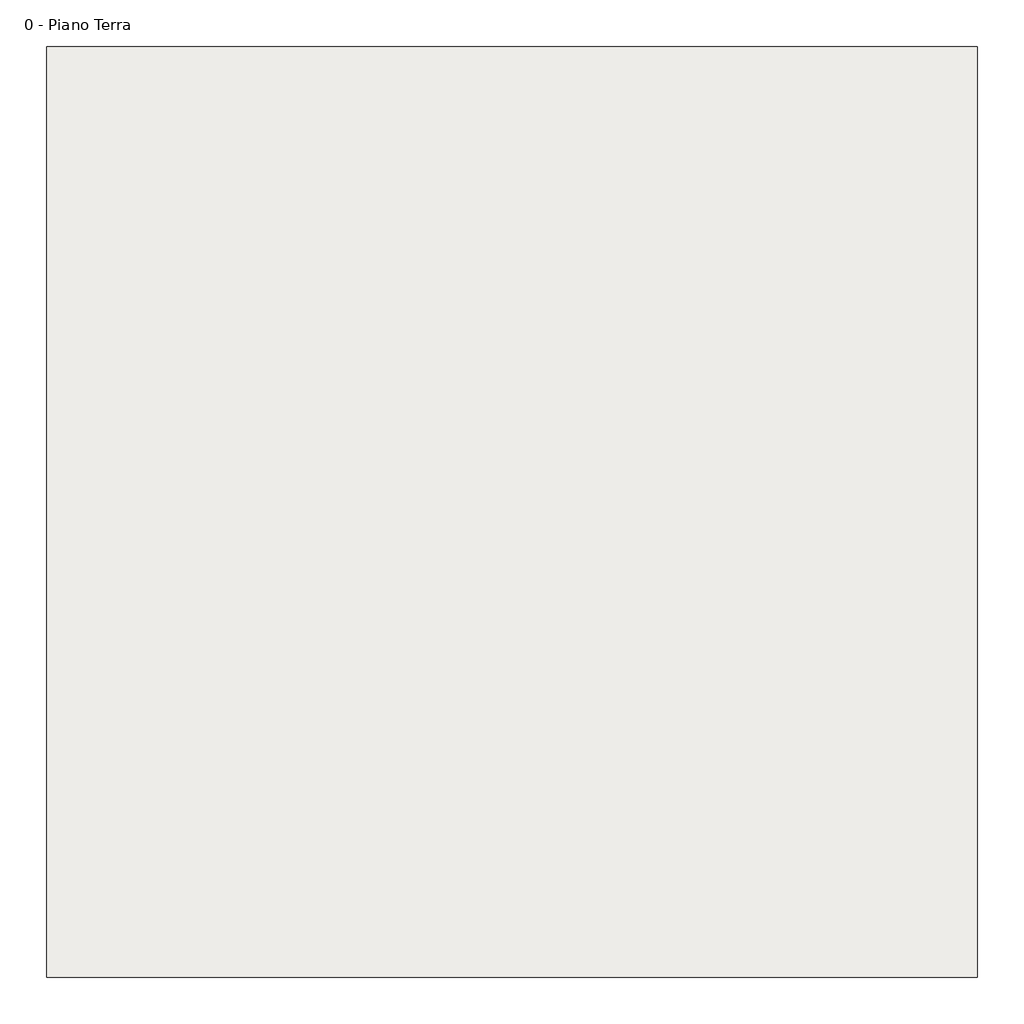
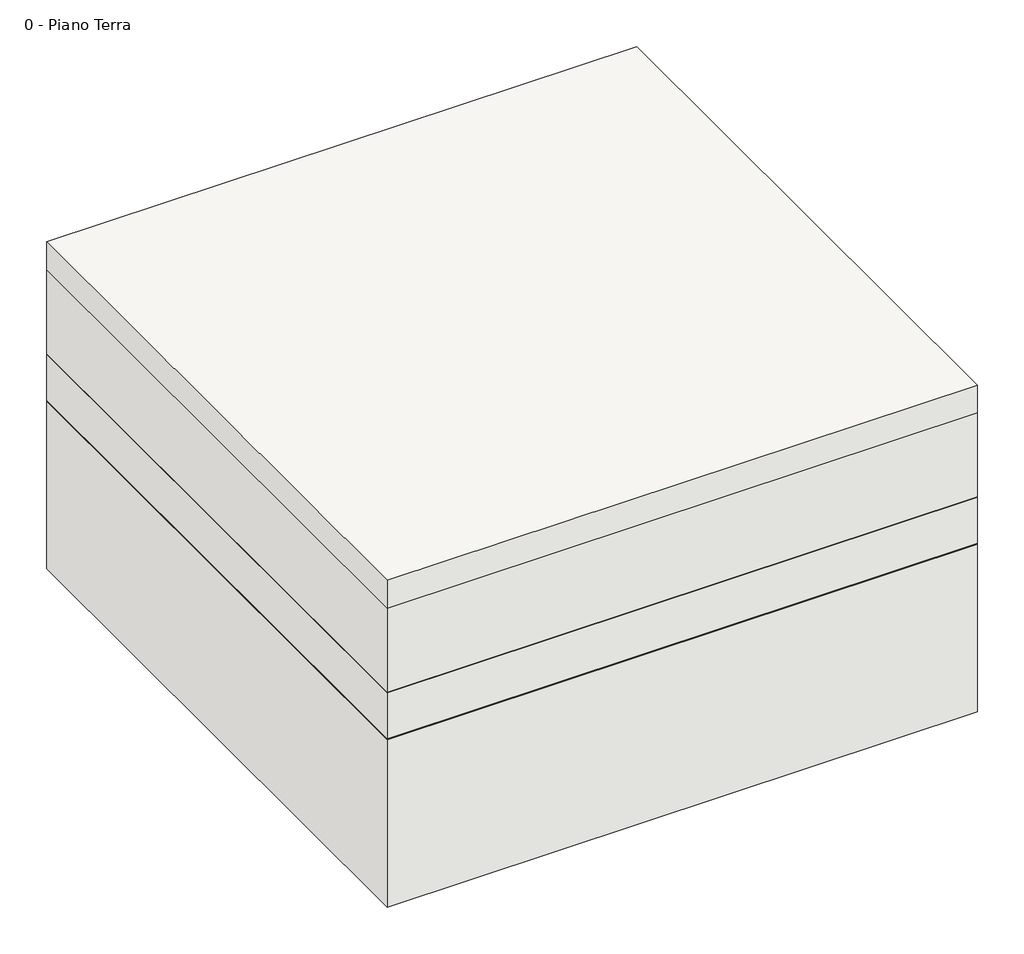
# One storey: 1 roof.
"""IFC4 building model written with IfcOpenShell, lengths in millimetres."""

from ifc_helpers import new_model, si_unit, frame, origin, place, context, project, spatial, polyline, outline, extrude, element, save

model = new_model("IFC4")

# Units and contexts
model_context = context("Model", 3, world=origin())
ifc_project = project(units=[si_unit("LENGTHUNIT", "METRE", prefix="MILLI")], contexts=[model_context])

# Site, building, storey
site = spatial("IfcSite", under=ifc_project)
building = spatial("IfcBuilding", under=site)
storey = spatial("IfcBuildingStorey", under=building, Name="0 - Piano Terra", Elevation=0.0)

# Roof
placement = place(None, origin())
element("IfcRoof", 1, ObjectType="DAKU_INTENSIVO STANDARD", at=placement, inside=storey, context=model_context, shape_type="SweptSolid", body=[
    extrude(outline(polyline([(-577.9721405, 368.8308162), (422.0278595, 368.8308162), (422.0278595, -631.1691838), (-577.9721405, -631.1691838), (-577.9721405, 368.8308162)])), frame((0.0, 0.0, 105.0), z_axis=(0.0, 0.0, 1.0), x_axis=(1.0, 0.0, 0.0)), (0.0, 0.0, 1.0), 50.0),
    extrude(outline(polyline([(-577.9721405, 368.8308162), (422.0278595, 368.8308162), (422.0278595, -631.1691838), (-577.9721405, -631.1691838), (-577.9721405, 368.8308162)])), frame((0.0, 0.0, -45.0), z_axis=(0.0, 0.0, 1.0), x_axis=(1.0, 0.0, 0.0)), (0.0, 0.0, 1.0), 150.0),
    extrude(outline(polyline([(-577.9721405, 368.8308162), (422.0278595, 368.8308162), (422.0278595, -631.1691838), (-577.9721405, -631.1691838), (-577.9721405, 368.8308162)])), frame((0.0, 0.0, -46.3), z_axis=(0.0, 0.0, 1.0), x_axis=(1.0, 0.0, 0.0)), (0.0, 0.0, 1.0), 1.3),
    extrude(outline(polyline([(-577.9721405, 368.8308162), (422.0278595, 368.8308162), (422.0278595, -631.1691838), (-577.9721405, -631.1691838), (-577.9721405, 368.8308162)])), frame((0.0, 0.0, -128.3), z_axis=(0.0, 0.0, 1.0), x_axis=(1.0, 0.0, 0.0)), (0.0, 0.0, 1.0), 82.0),
    extrude(outline(polyline([(-577.9721405, 368.8308162), (422.0278595, 368.8308162), (422.0278595, -631.1691838), (-577.9721405, -631.1691838), (-577.9721405, 368.8308162)])), frame((0.0, 0.0, -130.0), z_axis=(0.0, 0.0, 1.0), x_axis=(1.0, 0.0, 0.0)), (0.0, 0.0, 1.0), 1.7),
    extrude(outline(polyline([(-577.9721405, 368.8308162), (422.0278595, 368.8308162), (422.0278595, -631.1691838), (-577.9721405, -631.1691838), (-577.9721405, 368.8308162)])), frame((0.0, 0.0, -430.0), z_axis=(0.0, 0.0, 1.0), x_axis=(1.0, 0.0, 0.0)), (0.0, 0.0, 1.0), 300.0),
])

save(model, "model.ifc")
